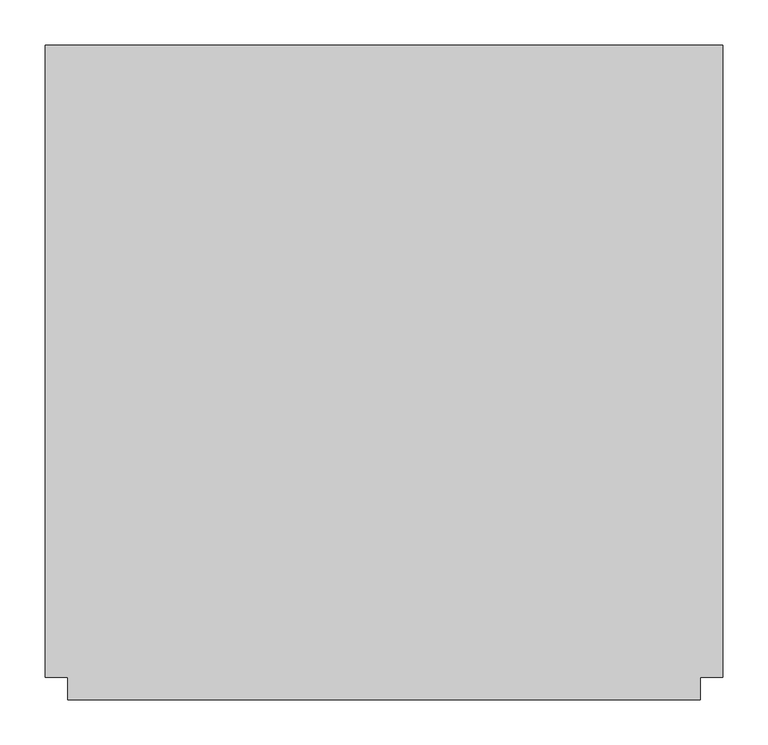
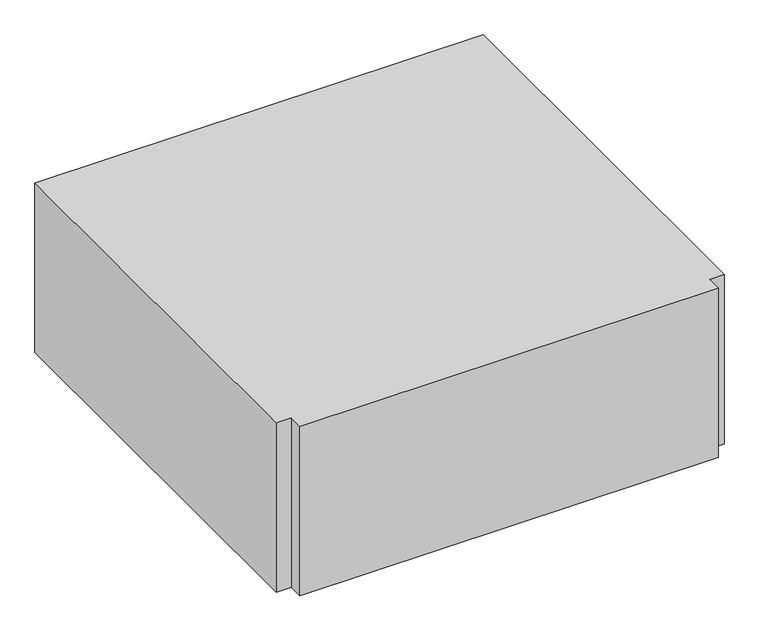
"""IFC4 building model written with IfcOpenShell, lengths in millimetres: duct fitting geometry, ADSK_ТройникВоздуховодов_Прямоугольный1 : Стандарт 2."""

from ifc_helpers import new_model, si_unit, frame, origin, place, context, project, spatial, polyline, outline, extrude, source, transform, mapped, element, save


def duct_fitting_3761594d(model_context):
    return source(origin(), model_context, "Body", "SweptSolid", [
        extrude(outline(polyline([(-375.0, -350.0), (-375.0, 350.0), (375.0, 350.0), (375.0, -350.0), (350.0, -350.0), (350.0, -375.0), (-350.0, -375.0), (-350.0, -350.0), (-375.0, -350.0)])), frame((0.0, 0.0, -150.0), z_axis=(0.0, 0.0, 1.0), x_axis=(1.0, 0.0, 0.0)), (0.0, 0.0, 1.0), 300.0),
    ])


if __name__ == "__main__":
    model = new_model("IFC4")
    model_context = context("Model", 3, world=origin())
    ifc_project = project(units=[si_unit("LENGTHUNIT", "METRE", prefix="MILLI")], contexts=[model_context])
    site = spatial("IfcSite", under=ifc_project)
    building = spatial("IfcBuilding", under=site)
    placement = place(None, origin())
    duct_fitting_shape = duct_fitting_3761594d(model_context)
    element("IfcDuctFitting", 1, ObjectType="ADSK_ТройникВоздуховодов_Прямоугольный1 : Стандарт 2", at=placement, inside=building, context=model_context, shape_type="MappedRepresentation", body=[
        mapped(duct_fitting_shape, transform((0.0, 0.0, 0.0), x_axis=(1.0, 0.0, 0.0), y_axis=(0.0, 1.0, 0.0), z_axis=(0.0, 0.0, 1.0))),
    ])
    save(model, "model.ifc")
